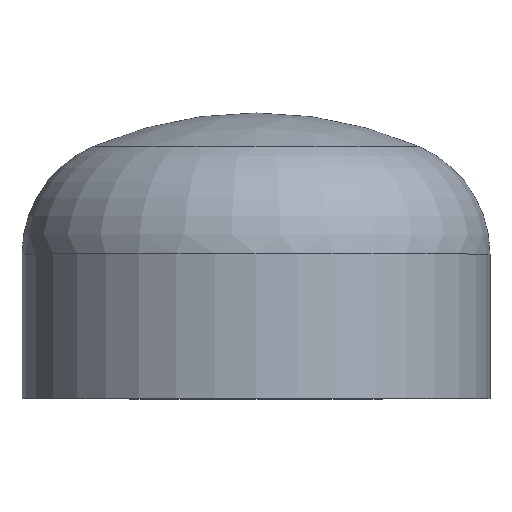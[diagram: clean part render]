
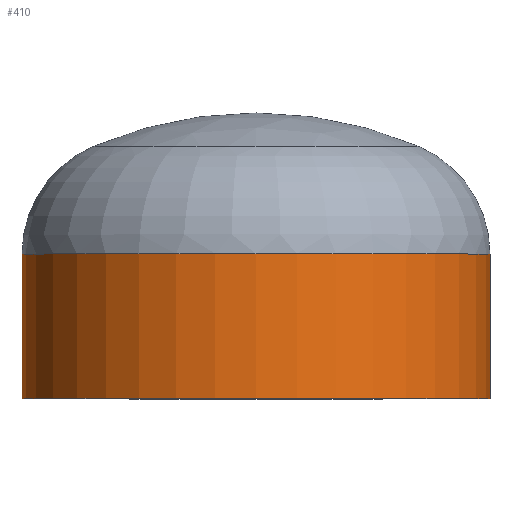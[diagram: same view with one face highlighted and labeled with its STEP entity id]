
A CAD part, top view. The second image highlights one B-rep face of the part: STEP entity #410.
In plain terms, the highlighted cylindrical face has radius 161.95 mm (diameter 323.9 mm), a partial arc.
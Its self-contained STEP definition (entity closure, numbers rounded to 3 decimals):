
#12 = ORIENTED_EDGE ( 'NONE', *, *, #336, .F. ) ;
#60 = VERTEX_POINT ( 'NONE', #257 ) ;
#69 = VERTEX_POINT ( 'NONE', #247 ) ;
#70 = VECTOR ( 'NONE', #156, 1000. ) ;
#92 = EDGE_LOOP ( 'NONE', ( #116, #102, #109, #12 ) ) ;
#97 = VERTEX_POINT ( 'NONE', #232 ) ;
#100 = VERTEX_POINT ( 'NONE', #241 ) ;
#102 = ORIENTED_EDGE ( 'NONE', *, *, #345, .T. ) ;
#109 = ORIENTED_EDGE ( 'NONE', *, *, #342, .F. ) ;
#116 = ORIENTED_EDGE ( 'NONE', *, *, #364, .T. ) ;
#131 = LINE ( 'NONE', #136, #70 ) ;
#136 = CARTESIAN_POINT ( 'NONE',  ( 161.95, 0., 0. ) ) ;
#143 = DIRECTION ( 'NONE',  ( 0., -1., 0. ) ) ;
#148 = CYLINDRICAL_SURFACE ( 'NONE', #328, 161.95 ) ;
#149 = AXIS2_PLACEMENT_3D ( 'NONE', #173, #176, #272 ) ;
#156 = DIRECTION ( 'NONE',  ( 0., -1., 0. ) ) ;
#173 = CARTESIAN_POINT ( 'NONE',  ( 0., 0., 0. ) ) ;
#175 = CIRCLE ( 'NONE', #187, 161.95 ) ;
#176 = DIRECTION ( 'NONE',  ( 0., -1., 0. ) ) ;
#177 = DIRECTION ( 'NONE',  ( 0., -1., 0. ) ) ;
#185 = CIRCLE ( 'NONE', #149, 161.95 ) ;
#187 = AXIS2_PLACEMENT_3D ( 'NONE', #299, #143, #329 ) ;
#197 = DIRECTION ( 'NONE',  ( 1., 0., 0. ) ) ;
#232 = CARTESIAN_POINT ( 'NONE',  ( -161.95, 100., 0. ) ) ;
#241 = CARTESIAN_POINT ( 'NONE',  ( -161.95, 0., 0. ) ) ;
#247 = CARTESIAN_POINT ( 'NONE',  ( 161.95, 100., 0. ) ) ;
#256 = VECTOR ( 'NONE', #177, 1000. ) ;
#257 = CARTESIAN_POINT ( 'NONE',  ( 161.95, 0., 0. ) ) ;
#272 = DIRECTION ( 'NONE',  ( 1., 0., 0. ) ) ;
#280 = CARTESIAN_POINT ( 'NONE',  ( -161.95, 0., 0. ) ) ;
#288 = FACE_OUTER_BOUND ( 'NONE', #92, .T. ) ;
#299 = CARTESIAN_POINT ( 'NONE',  ( 0., 100., 0. ) ) ;
#321 = CARTESIAN_POINT ( 'NONE',  ( 0., 0., 0. ) ) ;
#328 = AXIS2_PLACEMENT_3D ( 'NONE', #321, #390, #197 ) ;
#329 = DIRECTION ( 'NONE',  ( 1., 0., 0. ) ) ;
#336 = EDGE_CURVE ( 'NONE', #69, #60, #131, .T. ) ;
#342 = EDGE_CURVE ( 'NONE', #60, #100, #185, .T. ) ;
#345 = EDGE_CURVE ( 'NONE', #97, #100, #377, .T. ) ;
#364 = EDGE_CURVE ( 'NONE', #69, #97, #175, .T. ) ;
#377 = LINE ( 'NONE', #280, #256 ) ;
#390 = DIRECTION ( 'NONE',  ( 0., -1., 0. ) ) ;
#410 = ADVANCED_FACE ( 'NONE', ( #288 ), #148, .T. ) ;
